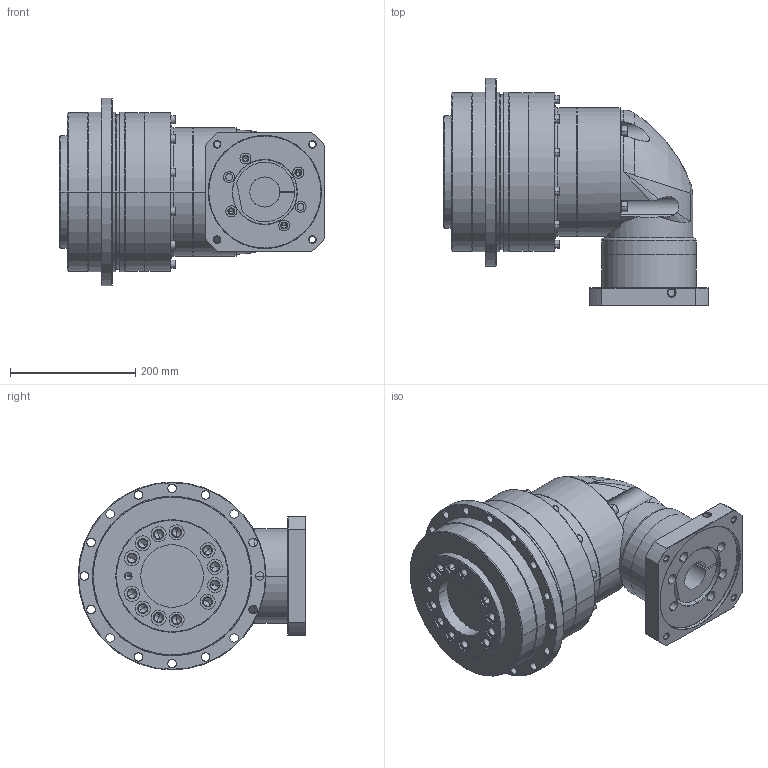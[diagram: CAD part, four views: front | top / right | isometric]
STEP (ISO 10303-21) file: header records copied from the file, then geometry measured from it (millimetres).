
FILE_DESCRIPTION((''),'2;1');
FILE_NAME('ADR2552-P0403600601_ASM','2008-09-02T',('d00080'),(''),'PRO/ENGINEER BY PARAMETRIC TECHNOLOGY CORPORATION, 2006170','PRO/ENGINEER BY PARAMETRIC TECHNOLOGY CORPORATION, 2006170','');
FILE_SCHEMA(('CONFIG_CONTROL_DESIGN'));
Length unit declared in the file: millimetre
Products named in the file (11): AD255-2; PH270001; 220120813; AH_RING_GEAR-SET2-7_ASM; P1002600001; 233100006; 220100916; HOUSING-SET-6_ASM; P1305600001; P0403600601; ADR2552-P0403600601_ASM
Assembly tree (27 placements, depth 3):
  ADR2552-P0403600601_ASM
    AD255-2
    AH_RING_GEAR-SET2-7_ASM
      PH270001
      220120813  x12
    HOUSING-SET-6_ASM
      P1002600001
      233100006  x4
      220100916  x4
    P1305600001
    P0403600601
Bounding box: 422.5 x 363.5 x 300 mm (x, y, z)
Volume: 16102126.4 mm3; surface area: 938466.8 mm2
Topology: 25 solids, 70 shells, 1233 faces, 2798 edges, 1685 vertices
Faces by surface type: cylinder 544, plane 382, cone 228, torus 61, bspline 18
Entity records: 23571 total; most frequent: CARTESIAN_POINT 4990, DIRECTION 4291, ORIENTED_EDGE 3328, AXIS2_PLACEMENT_3D 1813, EDGE_CURVE 1754, VERTEX_POINT 1129, CIRCLE 994, EDGE_LOOP 987
